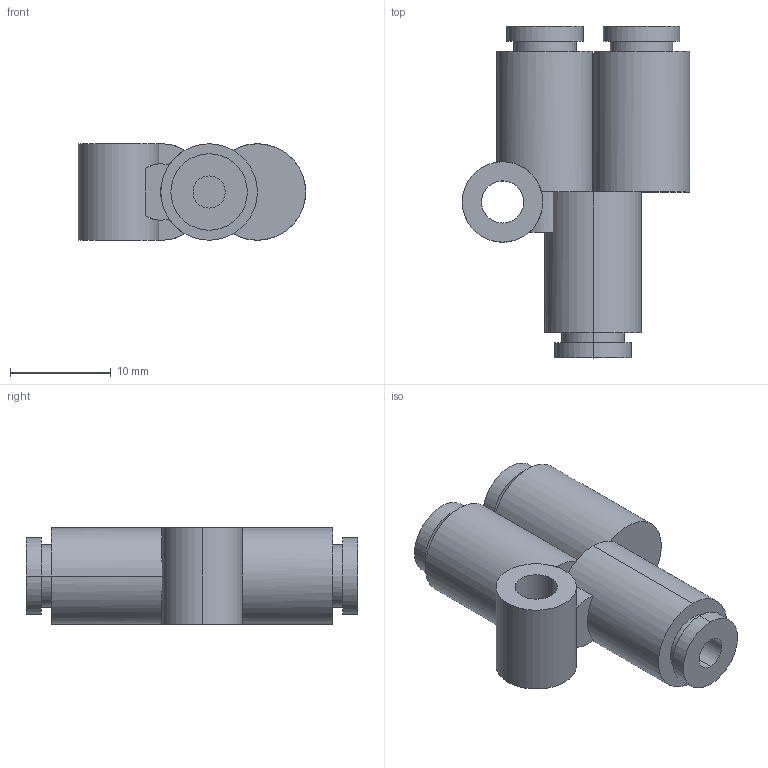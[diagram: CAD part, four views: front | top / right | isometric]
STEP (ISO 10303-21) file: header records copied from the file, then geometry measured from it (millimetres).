
FILE_DESCRIPTION( ( '' ), '1' );
FILE_NAME( 'G:/SMC狟婥/KQ2U23-00A.stp', '2023-03-07T03:35:56', ( '' ), ( '' ), ' ', ' ', ' ' );
FILE_SCHEMA( ( 'CONFIG_CONTROL_DESIGN' ) );
Length unit declared in the file: millimetre
Products named in the file (1): 1
Bounding box: 22.6 x 33 x 9.6 mm (x, y, z)
Volume: 3258.3 mm3; surface area: 2558.1 mm2
Topology: 1 solids, 1 shells, 57 faces, 130 edges, 84 vertices
Faces by surface type: cylinder 34, plane 23
Entity records: 1834 total; most frequent: CARTESIAN_POINT 432, DIRECTION 318, ORIENTED_EDGE 260, AXIS2_PLACEMENT_3D 136, EDGE_CURVE 130, VERTEX_POINT 84, CIRCLE 78, EDGE_LOOP 68
